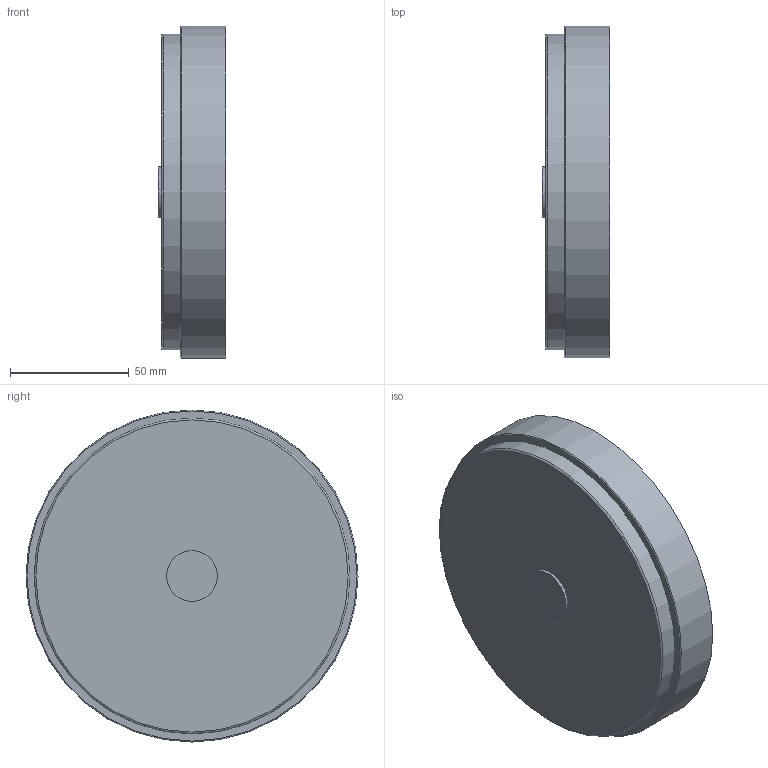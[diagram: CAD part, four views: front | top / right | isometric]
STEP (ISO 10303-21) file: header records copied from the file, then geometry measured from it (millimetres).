
FILE_DESCRIPTION(/* description */ ('VIC STRENGTHIN CAP No E496 w/Tap 1/2 inch BSPT (Concentric)','CAx-IF Rec.Pracs.---Representation and Presentation of Product Manufacturing Information (PMI)---4.0---2014-10-13'),/* implementation_level */ '2;1');
FILE_NAME(/* name */ 'C:\Users\Vjadhav\AppData\Roaming\Autodesk\ApplicationPlugins\Back Up\Victaulic_SS-StrengThin 100_Cap With Tap_No E496 (ST1)\Victaulic_SS-StrengThin 100_Cap With Tap_No E496 (ST1)_05.0 (139.7)x0.5 (125x15).stp',/* time_stamp */ '2020-07-07T18:46:59+05:00',/* author */ ('jheald'),/* organization */ ('Victaulic'),/* preprocessor_version */ 'ST-DEVELOPER v17.2',/* originating_system */ 'Autodesk Inventor 2019',/* authorisation */ '');
FILE_SCHEMA (('AP242_MANAGED_MODEL_BASED_3D_ENGINEERING_MIM_LF { 1 0 10303 442 1 1 4 }'));
Length unit declared in the file: inch
Products named in the file (1): E496-05.0 (139.7)x0.5
Bounding box: 28.19 x 139.7 x 139.7 mm (x, y, z)
Volume: 282248 mm3; surface area: 45980.3 mm2
Topology: 1 solids, 1 shells, 11 faces, 26 edges, 20 vertices
Faces by surface type: plane 5, cylinder 4, torus 2
Full cylindrical faces by diameter (mm): 21.336 x1, 125.476 x1, 132.893 x1, 139.7 x1
Entity records: 489 total; most frequent: DIRECTION 98, CARTESIAN_POINT 75, ORIENTED_EDGE 52, AXIS2_PLACEMENT_3D 47, EDGE_CURVE 26, CIRCLE 22, VERTEX_POINT 20, EDGE_LOOP 14
